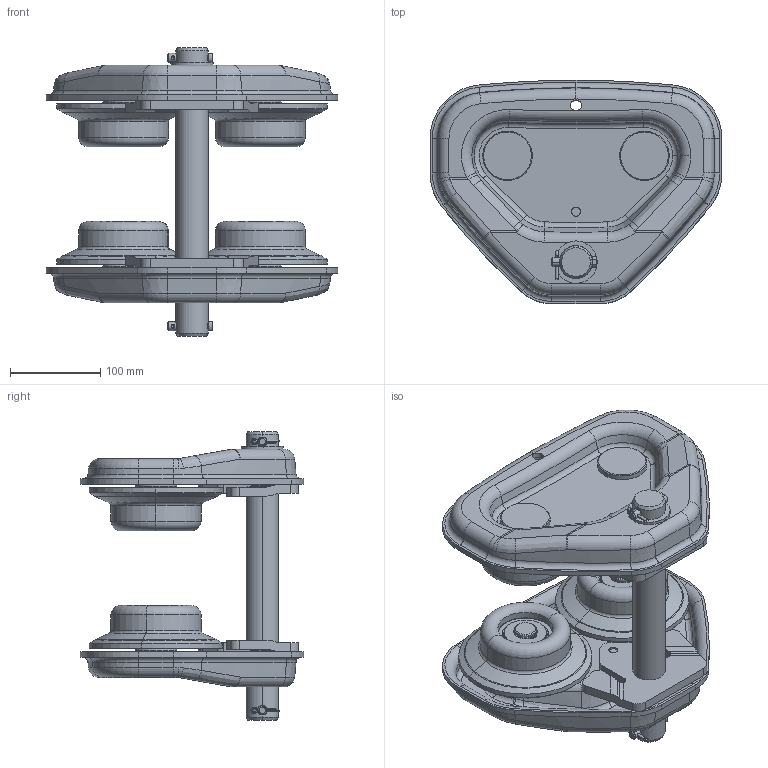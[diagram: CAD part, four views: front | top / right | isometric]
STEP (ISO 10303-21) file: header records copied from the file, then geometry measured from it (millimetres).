
FILE_DESCRIPTION (( 'STEP AP214' ), '1' );
FILE_NAME ('PTF2030.STEP', '2026-08-17T12:32:26', ( '' ), ( '' ), 'SwSTEP 2.0', 'SolidWorks 2026', '' );
FILE_SCHEMA (( 'AUTOMOTIVE_DESIGN' ));
Length unit declared in the file: inch
Products named in the file (14): MS104030; T6G5112030; MS164020; T7G115030; T6G5102030; T7G117030; T6GA0309112; J1GR020-0630; 9009432_9009432; T6GA0309103; 9047125_B27.7M - 3AM1-23; PTF2030; T6GA0309113; T6GA0309102
Assembly tree (26 placements, depth 3):
  PTF2030
    T6G5112030  x2
      T6GA0309112
      T6GA0309103
      T6GA0309113
    T6G5102030  x4
      T6GA0309102
      J1GR020-0630
    MS104030  x4
    9047125_B27.7M - 3AM1-23  x4
    T7G115030
    T7G117030
    MS164020  x2
    9009432_9009432  x2
Bounding box: 324 x 248 x 320 mm (x, y, z)
Volume: 2355280 mm3; surface area: 848783.7 mm2
Topology: 26 solids, 42 shells, 2452 faces, 6246 edges, 4016 vertices
Faces by surface type: plane 1322, cylinder 522, torus 256, bspline 168, cone 164, sphere 20
Entity records: 26774 total; most frequent: CARTESIAN_POINT 7756, ORIENTED_EDGE 3892, DIRECTION 3729, EDGE_CURVE 1948, AXIS2_PLACEMENT_3D 1513, VERTEX_POINT 1234, EDGE_LOOP 846, ADVANCED_FACE 776
